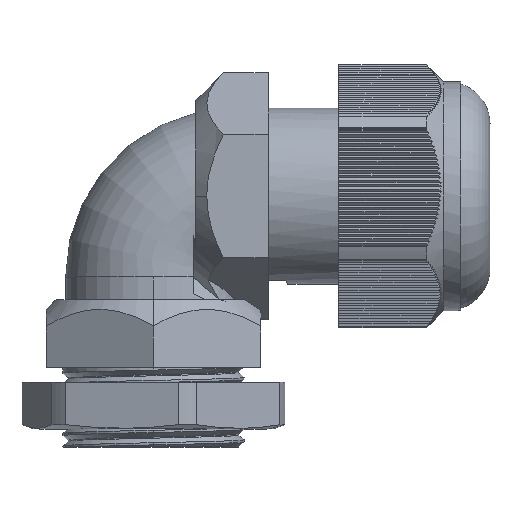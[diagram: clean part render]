
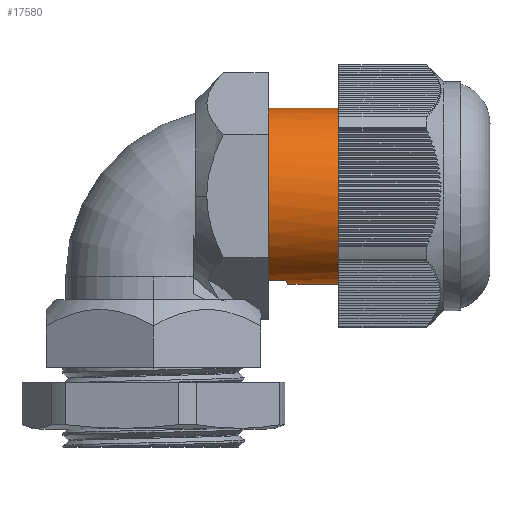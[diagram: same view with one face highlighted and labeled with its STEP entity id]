
A CAD part, top view. The second image highlights one B-rep face of the part: STEP entity #17580.
In plain terms, the highlighted cylindrical face has radius 9.842 mm (diameter 19.685 mm), a partial arc.
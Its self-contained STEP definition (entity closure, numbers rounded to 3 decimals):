
#26 = CIRCLE ( 'NONE', #22795, 9.843 ) ;
#463 = EDGE_CURVE ( 'NONE', #12810, #11621, #21026, .T. ) ;
#680 = CARTESIAN_POINT ( 'NONE',  ( 12.867, 9.8, 2.861 ) ) ;
#1202 = B_SPLINE_CURVE_WITH_KNOTS ( 'NONE', 3,
 ( #680, #4375, #6030, #16919 ),
 .UNSPECIFIED., .F., .F.,
 ( 4, 4 ),
 ( 2370.096, 2370.098 ),
 .UNSPECIFIED. ) ;
#1578 = CARTESIAN_POINT ( 'NONE',  ( 15.06, 9.375, 0.491 ) ) ;
#2453 = FACE_OUTER_BOUND ( 'NONE', #4852, .T. ) ;
#3917 = VECTOR ( 'NONE', #10447, 1000. ) ;
#4098 = DIRECTION ( 'NONE',  ( 0., 1., 0. ) ) ;
#4375 = CARTESIAN_POINT ( 'NONE',  ( 13.507, 9.8, 2.861 ) ) ;
#4683 = ORIENTED_EDGE ( 'NONE', *, *, #22735, .F. ) ;
#4728 = CYLINDRICAL_SURFACE ( 'NONE', #7751, 9.843 ) ;
#4852 = EDGE_LOOP ( 'NONE', ( #16788, #13871, #20265, #4683, #9872, #19002 ) ) ;
#5135 = CARTESIAN_POINT ( 'NONE',  ( 14.786, 9.8, 2.861 ) ) ;
#5405 = VECTOR ( 'NONE', #15385, 1000. ) ;
#6030 = CARTESIAN_POINT ( 'NONE',  ( 14.146, 9.8, 2.861 ) ) ;
#6772 = EDGE_CURVE ( 'NONE', #8765, #13256, #1202, .T. ) ;
#7751 = AXIS2_PLACEMENT_3D ( 'NONE', #7779, #22148, #11402 ) ;
#7779 = CARTESIAN_POINT ( 'NONE',  ( 34.457, 19.217, 0. ) ) ;
#8340 = CARTESIAN_POINT ( 'NONE',  ( 12.867, 9.8, 2.861 ) ) ;
#8765 = VERTEX_POINT ( 'NONE', #8340 ) ;
#9410 = VERTEX_POINT ( 'NONE', #15132 ) ;
#9872 = ORIENTED_EDGE ( 'NONE', *, *, #6772, .T. ) ;
#9873 = CARTESIAN_POINT ( 'NONE',  ( 34.457, 29.06, 0. ) ) ;
#10447 = DIRECTION ( 'NONE',  ( -1., 0., 0. ) ) ;
#10467 = LINE ( 'NONE', #9873, #5405 ) ;
#10598 = CARTESIAN_POINT ( 'NONE',  ( 14.944, 9.554, 1.93 ) ) ;
#11402 = DIRECTION ( 'NONE',  ( 0., 1., 0. ) ) ;
#11621 = VERTEX_POINT ( 'NONE', #16900 ) ;
#12359 = EDGE_CURVE ( 'NONE', #14727, #12810, #13294, .T. ) ;
#12439 = CARTESIAN_POINT ( 'NONE',  ( 15.036, 9.411, 0.976 ) ) ;
#12810 = VERTEX_POINT ( 'NONE', #14620 ) ;
#13256 = VERTEX_POINT ( 'NONE', #5135 ) ;
#13294 = CIRCLE ( 'NONE', #20892, 9.843 ) ;
#13871 = ORIENTED_EDGE ( 'NONE', *, *, #12359, .F. ) ;
#14024 = CARTESIAN_POINT ( 'NONE',  ( 34.457, 9.375, 0. ) ) ;
#14620 = CARTESIAN_POINT ( 'NONE',  ( 20.771, 9.375, 0. ) ) ;
#14623 = EDGE_CURVE ( 'NONE', #13256, #11621, #17839, .T. ) ;
#14727 = VERTEX_POINT ( 'NONE', #21612 ) ;
#14888 = DIRECTION ( 'NONE',  ( 1., 0., 0. ) ) ;
#15132 = CARTESIAN_POINT ( 'NONE',  ( 12.867, 29.06, 0. ) ) ;
#15385 = DIRECTION ( 'NONE',  ( -1., 0., 0. ) ) ;
#15567 = CARTESIAN_POINT ( 'NONE',  ( 12.867, 19.217, 0. ) ) ;
#15993 = CARTESIAN_POINT ( 'NONE',  ( 14.786, 9.8, 2.861 ) ) ;
#16788 = ORIENTED_EDGE ( 'NONE', *, *, #463, .F. ) ;
#16900 = CARTESIAN_POINT ( 'NONE',  ( 15.06, 9.375, 0. ) ) ;
#16919 = CARTESIAN_POINT ( 'NONE',  ( 14.786, 9.8, 2.861 ) ) ;
#17580 = ADVANCED_FACE ( 'NONE', ( #2453 ), #4728, .T. ) ;
#17839 = B_SPLINE_CURVE_WITH_KNOTS ( 'NONE', 3,
 ( #15993, #21403, #10598, #12439, #1578, #21484 ),
 .UNSPECIFIED., .F., .F.,
 ( 4, 2, 4 ),
 ( 0., 0.001, 0.003 ),
 .UNSPECIFIED. ) ;
#17999 = CARTESIAN_POINT ( 'NONE',  ( 20.771, 19.217, 0. ) ) ;
#18837 = EDGE_CURVE ( 'NONE', #14727, #9410, #10467, .T. ) ;
#19002 = ORIENTED_EDGE ( 'NONE', *, *, #14623, .T. ) ;
#19003 = DIRECTION ( 'NONE',  ( -1., 0., 0. ) ) ;
#20265 = ORIENTED_EDGE ( 'NONE', *, *, #18837, .T. ) ;
#20892 = AXIS2_PLACEMENT_3D ( 'NONE', #17999, #14888, #4098 ) ;
#21026 = LINE ( 'NONE', #14024, #3917 ) ;
#21403 = CARTESIAN_POINT ( 'NONE',  ( 14.875, 9.66, 2.399 ) ) ;
#21484 = CARTESIAN_POINT ( 'NONE',  ( 15.06, 9.375, 0. ) ) ;
#21612 = CARTESIAN_POINT ( 'NONE',  ( 20.771, 29.06, 0. ) ) ;
#22148 = DIRECTION ( 'NONE',  ( -1., 0., 0. ) ) ;
#22735 = EDGE_CURVE ( 'NONE', #8765, #9410, #26, .T. ) ;
#22754 = DIRECTION ( 'NONE',  ( 0., 1., 0. ) ) ;
#22795 = AXIS2_PLACEMENT_3D ( 'NONE', #15567, #19003, #22754 ) ;
